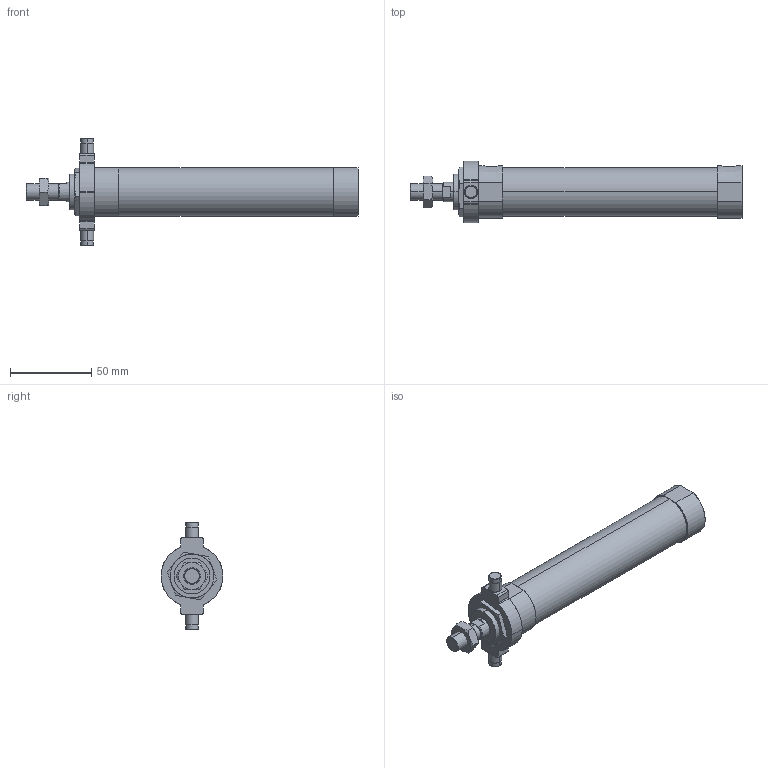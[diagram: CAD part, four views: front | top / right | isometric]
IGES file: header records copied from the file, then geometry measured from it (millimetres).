
Start section: SolidWorks IGES file using analytic representation for surfaces
Global section: file name: C:\Users\Toshiba\Desktop\JGND2-25-100-T.IGS; native system: SolidWorks 2014; preprocessor: SolidWorks 2014; author: Toshiba; date: 160804.104040; units: millimetre
Bounding box: 204 x 38 x 66 mm (x, y, z)
Surface area: 26353.4 mm2 (no closed solid volume)
Topology: 0 solids, 0 shells, 128 faces, 2096 edges, 2092 vertices
Faces by surface type: bspline 69, revolution 59
